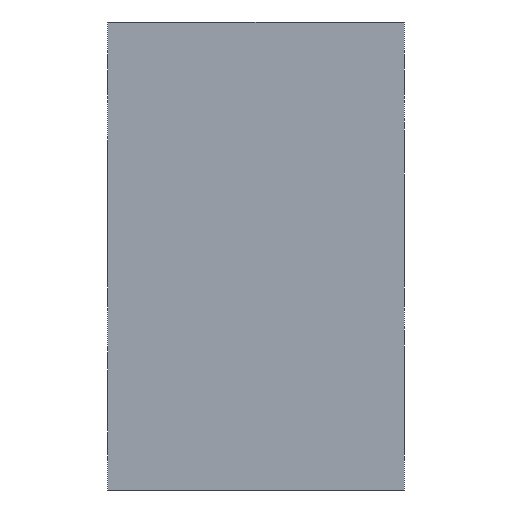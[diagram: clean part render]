
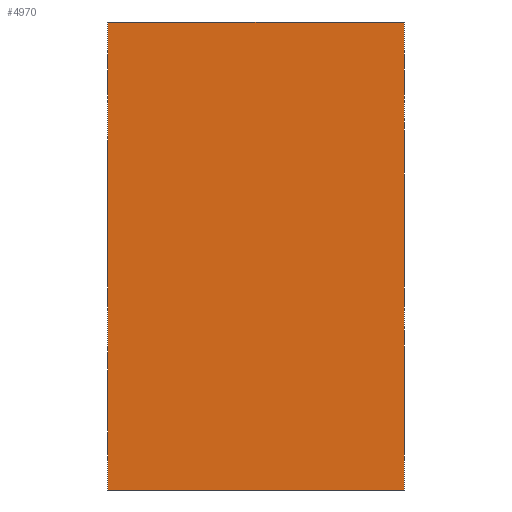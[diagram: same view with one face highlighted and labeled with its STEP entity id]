
A CAD part, left-side view. The second image highlights one B-rep face of the part: STEP entity #4970.
In plain terms, the highlighted planar face has unit normal (-1, 0, 0).
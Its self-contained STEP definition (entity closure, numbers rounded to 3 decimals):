
#105 = VECTOR ( 'NONE', #3806, 1000. ) ;
#138 = AXIS2_PLACEMENT_3D ( 'NONE', #7792, #7759, #7836 ) ;
#361 = EDGE_CURVE ( 'NONE', #5812, #7741, #7537, .T. ) ;
#476 = EDGE_CURVE ( 'NONE', #488, #5812, #4389, .T. ) ;
#488 = VERTEX_POINT ( 'NONE', #3955 ) ;
#809 = VECTOR ( 'NONE', #4141, 1000. ) ;
#1251 = CARTESIAN_POINT ( 'NONE',  ( 0., -19., 30. ) ) ;
#1423 = FACE_OUTER_BOUND ( 'NONE', #5051, .T. ) ;
#1993 = LINE ( 'NONE', #3667, #105 ) ;
#2620 = DIRECTION ( 'NONE',  ( 0., 0., 1. ) ) ;
#2912 = CARTESIAN_POINT ( 'NONE',  ( 0., 19., 30. ) ) ;
#3235 = CARTESIAN_POINT ( 'NONE',  ( 0., -19., -30. ) ) ;
#3320 = DIRECTION ( 'NONE',  ( 0., 1., 0. ) ) ;
#3377 = VERTEX_POINT ( 'NONE', #3452 ) ;
#3452 = CARTESIAN_POINT ( 'NONE',  ( 0., -19., 30. ) ) ;
#3667 = CARTESIAN_POINT ( 'NONE',  ( 0., -19., 30. ) ) ;
#3754 = ORIENTED_EDGE ( 'NONE', *, *, #361, .F. ) ;
#3768 = ORIENTED_EDGE ( 'NONE', *, *, #4232, .F. ) ;
#3776 = ORIENTED_EDGE ( 'NONE', *, *, #4155, .F. ) ;
#3778 = VECTOR ( 'NONE', #2620, 1000. ) ;
#3796 = ORIENTED_EDGE ( 'NONE', *, *, #476, .F. ) ;
#3806 = DIRECTION ( 'NONE',  ( 0., 0., -1. ) ) ;
#3955 = CARTESIAN_POINT ( 'NONE',  ( 0., -19., -30. ) ) ;
#4141 = DIRECTION ( 'NONE',  ( 0., -1., 0. ) ) ;
#4155 = EDGE_CURVE ( 'NONE', #3377, #488, #1993, .T. ) ;
#4232 = EDGE_CURVE ( 'NONE', #7741, #3377, #6909, .T. ) ;
#4389 = LINE ( 'NONE', #3235, #8569 ) ;
#4970 = ADVANCED_FACE ( 'NONE', ( #1423 ), #7532, .T. ) ;
#5051 = EDGE_LOOP ( 'NONE', ( #3796, #3776, #3768, #3754 ) ) ;
#5665 = CARTESIAN_POINT ( 'NONE',  ( 0., 19., -30. ) ) ;
#5812 = VERTEX_POINT ( 'NONE', #5665 ) ;
#6004 = CARTESIAN_POINT ( 'NONE',  ( 0., 19., 30. ) ) ;
#6909 = LINE ( 'NONE', #1251, #809 ) ;
#7532 = PLANE ( 'NONE',  #138 ) ;
#7537 = LINE ( 'NONE', #2912, #3778 ) ;
#7741 = VERTEX_POINT ( 'NONE', #6004 ) ;
#7759 = DIRECTION ( 'NONE',  ( -1., 0., 0. ) ) ;
#7792 = CARTESIAN_POINT ( 'NONE',  ( 0., 19., -30. ) ) ;
#7836 = DIRECTION ( 'NONE',  ( 0., 0., 1. ) ) ;
#8569 = VECTOR ( 'NONE', #3320, 1000. ) ;
